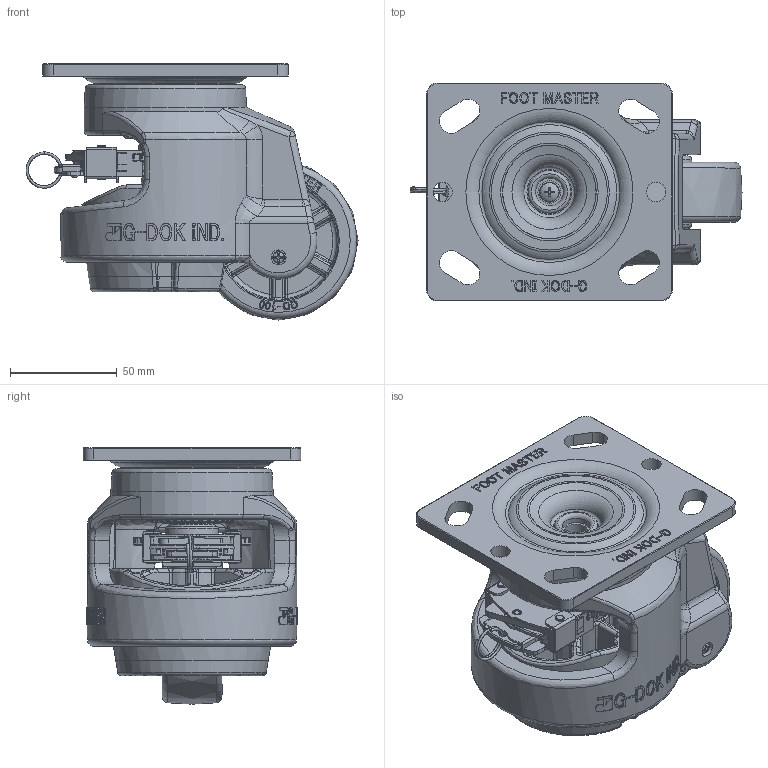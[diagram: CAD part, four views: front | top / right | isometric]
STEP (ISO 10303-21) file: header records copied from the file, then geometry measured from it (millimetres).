
FILE_DESCRIPTION(/* description */ (''),/* implementation_level */ '2;1');
FILE_NAME(/* name */ '\\192.168.10.38\지덕공유\1.기술연구소\2.연구개발 진행중\119.GDR-100 개발건_2025.01.23\3d\홈페이지용\1\2\3.GDR-100-F-NYN-PUS_Shrinkwrap_1.stp',/* time_stamp */ '2025-08-14T19:47:14+09:00',/* author */ ('admin'),/* organization */ (''),/* preprocessor_version */ 'ST-DEVELOPER v18.1',/* originating_system */ 'Autodesk Inventor 2021',/* authorisation */ '');
FILE_SCHEMA (('AUTOMOTIVE_DESIGN { 1 0 10303 214 3 1 1 }'));
Length unit declared in the file: millimetre
Products named in the file (1): 3.GDR-100-F-NYN-PUS_Shrinkwrap_1
Bounding box: 155.47 x 102 x 120.04 mm (x, y, z)
Volume: 610111.3 mm3; surface area: 147144.4 mm2
Topology: 1 solids, 16 shells, 4126 faces, 10443 edges, 6449 vertices
Faces by surface type: bspline 1273, plane 1270, cylinder 879, torus 337, cone 200, sphere 167
Full cylindrical faces by diameter (mm): 2 x8, 2.3 x6, 2.5 x2, 2.7 x6, 3 x4, 3.5 x2, 4 x9, 4.1 x1, 4.3 x2, 5 x2, 5.5 x2, 6.9 x2, 9 x2, 10.7 x1, 13 x1, 20 x3, 20.078 x2, 26.3 x1, 39 x1, 66.974 x1
Entity records: 155323 total; most frequent: CARTESIAN_POINT 58606, ORIENTED_EDGE 20816, DIRECTION 17281, EDGE_CURVE 10408, AXIS2_PLACEMENT_3D 6570, VERTEX_POINT 6449, EDGE_LOOP 4328, LINE 4141
